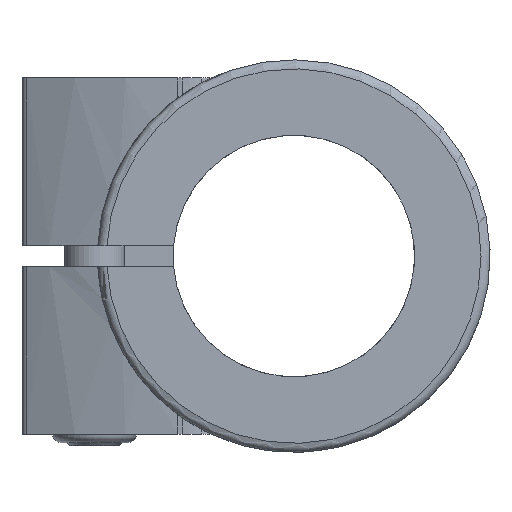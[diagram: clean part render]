
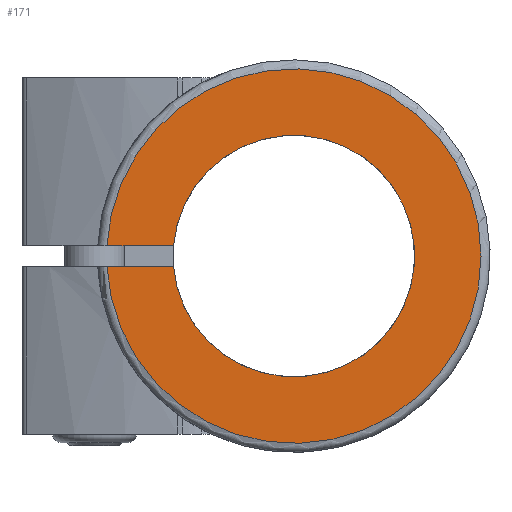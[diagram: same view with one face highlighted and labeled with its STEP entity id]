
A CAD part, left-side view. The second image highlights one B-rep face of the part: STEP entity #171.
In plain terms, the highlighted planar face has unit normal (-1, 0, 0).
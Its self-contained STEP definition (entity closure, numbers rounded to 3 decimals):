
#171 = ADVANCED_FACE( '', ( #460 ), #461, .F. );
#460 = FACE_OUTER_BOUND( '', #820, .T. );
#461 = PLANE( '', #821 );
#820 = EDGE_LOOP( '', ( #1722, #1723, #1724, #1725 ) );
#821 = AXIS2_PLACEMENT_3D( '', #1726, #1727, #1728 );
#1722 = ORIENTED_EDGE( '', *, *, #2583, .F. );
#1723 = ORIENTED_EDGE( '', *, *, #2297, .F. );
#1724 = ORIENTED_EDGE( '', *, *, #2585, .F. );
#1725 = ORIENTED_EDGE( '', *, *, #2311, .F. );
#1726 = CARTESIAN_POINT( '', ( 0., 0., 0. ) );
#1727 = DIRECTION( '', ( 1., 0., 0. ) );
#1728 = DIRECTION( '', ( 0., 0., -1. ) );
#2297 = EDGE_CURVE( '', #2736, #2737, #2738, .T. );
#2311 = EDGE_CURVE( '', #2763, #2765, #2766, .T. );
#2583 = EDGE_CURVE( '', #2737, #2763, #3241, .F. );
#2585 = EDGE_CURVE( '', #2765, #2736, #3243, .T. );
#2736 = VERTEX_POINT( '', #3472 );
#2737 = VERTEX_POINT( '', #3473 );
#2738 = LINE( '', #3474, #3475 );
#2763 = VERTEX_POINT( '', #3519 );
#2765 = VERTEX_POINT( '', #3522 );
#2766 = LINE( '', #3523, #3524 );
#3241 = CIRCLE( '', #4389, 20. );
#3243 = CIRCLE( '', #4391, 31. );
#3472 = CARTESIAN_POINT( '', ( 0., 30.951, -1.75 ) );
#3473 = CARTESIAN_POINT( '', ( 0., 19.923, -1.75 ) );
#3474 = CARTESIAN_POINT( '', ( 0., 0., -1.75 ) );
#3475 = VECTOR( '', #4787, 1000. );
#3519 = CARTESIAN_POINT( '', ( 0., 19.923, 1.75 ) );
#3522 = CARTESIAN_POINT( '', ( 0., 30.951, 1.75 ) );
#3523 = CARTESIAN_POINT( '', ( 0., 0., 1.75 ) );
#3524 = VECTOR( '', #4810, 1000. );
#4389 = AXIS2_PLACEMENT_3D( '', #5223, #5224, #5225 );
#4391 = AXIS2_PLACEMENT_3D( '', #5229, #5230, #5231 );
#4787 = DIRECTION( '', ( 0., -1., 0. ) );
#4810 = DIRECTION( '', ( 0., 1., 0. ) );
#5223 = CARTESIAN_POINT( '', ( 0., 0., 0. ) );
#5224 = DIRECTION( '', ( 1., 0., 0. ) );
#5225 = DIRECTION( '', ( 0., 0., -1. ) );
#5229 = CARTESIAN_POINT( '', ( 0., 0., 0. ) );
#5230 = DIRECTION( '', ( 1., 0., 0. ) );
#5231 = DIRECTION( '', ( 0., 0., -1. ) );
